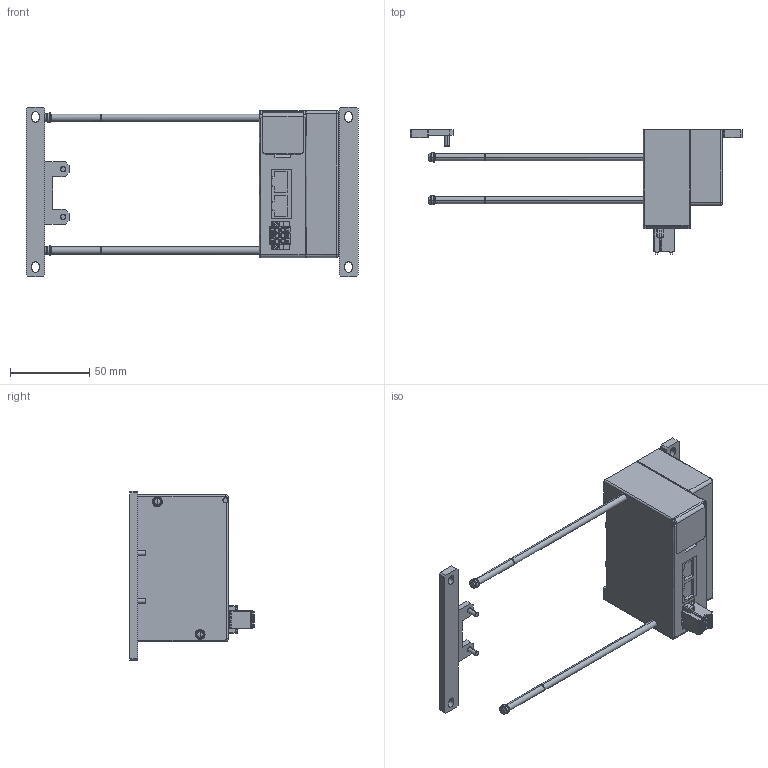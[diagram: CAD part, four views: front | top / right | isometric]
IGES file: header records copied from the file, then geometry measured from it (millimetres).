
Start section: ------------------------------------------------------------------------
Bounding box: 210 x 78.8 x 107 mm (x, y, z)
Volume: 272926.3 mm3; surface area: 45061.8 mm2
Topology: 3 solids, 3 shells, 833 faces, 2143 edges, 1367 vertices
Faces by surface type: bspline 833
